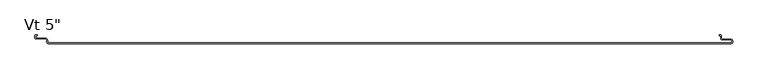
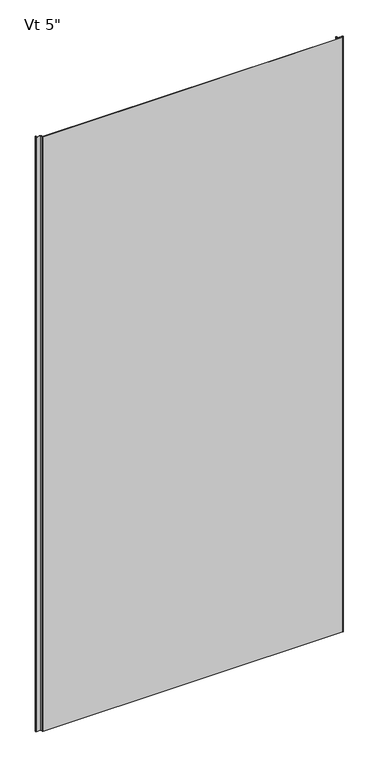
"""IFC4 building model written with IfcOpenShell, lengths in millimetres: plate geometry."""

import ifcopenshell
import ifcopenshell.guid

model = None  # the IFC model being written
_history = None  # IfcOwnerHistory: only IFC2X3 demands one
_inside = {}  # id of a spatial element -> (the spatial element, [elements in it])
_under = {}  # id of a project, library or spatial element -> (it, [spatial elements below it])
_declared = {}  # id of a project -> (the project, [libraries it declares])
_typed = {}  # id of a type object -> (the type object, [elements of that type])
_made_of = {}  # id of a material, layer set ... -> (it, [elements and type objects made of it])


def new_model(schema):
    """Start an empty IFC model of exactly this schema.

    Asked for "IFC4X3", IfcOpenShell would pick the latest addendum, in which some entities
    have other attributes; the version numbers below select the first issue.
    IFC2X3 requires an IfcOwnerHistory on every rooted entity: one is made here for all.
    """
    global model, _history
    if schema == "IFC4X3":
        model = ifcopenshell.file(schema_version=(4, 3, 0, 0))
    else:
        model = ifcopenshell.file(schema=schema)
    _inside.clear()
    _under.clear()
    _declared.clear()
    _typed.clear()
    _made_of.clear()
    _history = None
    if model.schema == "IFC2X3":
        org = make("IfcOrganization", Name="unknown")
        user = make(
            "IfcPersonAndOrganization",
            ThePerson=make("IfcPerson", FamilyName="unknown"),
            TheOrganization=org,
        )
        app = make(
            "IfcApplication",
            ApplicationDeveloper=org,
            Version="unknown",
            ApplicationFullName="unknown",
            ApplicationIdentifier="unknown",
        )
        _history = make(
            "IfcOwnerHistory",
            OwningUser=user,
            OwningApplication=app,
            ChangeAction="ADDED",
            CreationDate=0,
        )
    return model


def make(cls, **values):
    """One entity of the class cls with the attributes given. An attribute that is None is left unset."""
    return model.create_entity(
        cls, **{name: value for name, value in values.items() if value is not None}
    )


def rooted(cls, **values):
    """An entity with a GlobalId (a new one), such as an element, a storey or a relation."""
    return make(cls, GlobalId=ifcopenshell.guid.new(), OwnerHistory=_history, **values)


def si_unit(unit_type, name, prefix=None):
    """IfcSIUnit, for example si_unit("LENGTHUNIT", "METRE", prefix="MILLI")."""
    return make("IfcSIUnit", UnitType=unit_type, Prefix=prefix, Name=name)


def assignment(units):
    """IfcUnitAssignment: the units of a project."""
    return None if units is None else make("IfcUnitAssignment", Units=units)


def point(xyz):
    """IfcCartesianPoint."""
    return None if xyz is None else make("IfcCartesianPoint", Coordinates=xyz)


def direction(xyz):
    """IfcDirection."""
    return None if xyz is None else make("IfcDirection", DirectionRatios=xyz)


def frame(location, z_axis=None, x_axis=None):
    """IfcAxis2Placement3D, a coordinate frame: its origin and axes. An axis left out is left unset."""
    return make(
        "IfcAxis2Placement3D",
        Location=point(location),
        Axis=direction(z_axis),
        RefDirection=direction(x_axis),
    )


def origin():
    """The frame at (0, 0, 0) with its axes left unset."""
    return frame((0.0, 0.0, 0.0))


def place(relative_to, where):
    """IfcLocalPlacement: puts the frame where relative to a parent placement (None: the world)."""
    return make(
        "IfcLocalPlacement", PlacementRelTo=relative_to, RelativePlacement=where
    )


def context(
    kind, dimensions, precision=None, world=None, true_north=None, identifier=None
):
    """IfcGeometricRepresentationContext, for example the 3D "Model" context."""
    return make(
        "IfcGeometricRepresentationContext",
        ContextIdentifier=identifier,
        ContextType=kind,
        CoordinateSpaceDimension=dimensions,
        Precision=precision,
        WorldCoordinateSystem=world,
        TrueNorth=true_north,
    )


def project(units=None, contexts=None):
    """IfcProject with its units and contexts."""
    return rooted(
        "IfcProject",
        Name="project",
        RepresentationContexts=contexts,
        UnitsInContext=assignment(units),
    )


def spatial(cls, under=None, at=None, **own):
    """A site, building, storey or space (cls), placed at a placement, below another one or the project."""
    s = rooted(cls, ObjectPlacement=at, **own)
    if under is not None:
        _under.setdefault(under.id(), (under, []))[1].append(s)
    return s


def polyline(points):
    """IfcPolyline through the points."""
    return make("IfcPolyline", Points=[point(p) for p in points])


def circle_curve(where, radius):
    """IfcCircle in the frame where."""
    return make("IfcCircle", Position=where, Radius=radius)


def shape(context_of_items, identifier, shape_type, items):
    """IfcShapeRepresentation: the items that make up one representation, for example the "Body"."""
    return make(
        "IfcShapeRepresentation",
        ContextOfItems=context_of_items,
        RepresentationIdentifier=identifier,
        RepresentationType=shape_type,
        Items=items,
    )


def source(mapping_origin, context_of_items, identifier, shape_type, items):
    """IfcRepresentationMap: a shape defined once, which mapped items show again and again."""
    return make(
        "IfcRepresentationMap",
        MappingOrigin=mapping_origin,
        MappedRepresentation=shape(context_of_items, identifier, shape_type, items),
    )


def transform(
    local_origin,
    x_axis=None,
    y_axis=None,
    z_axis=None,
    scale=None,
    scale2=None,
    scale3=None,
    uniform=True,
):
    """IfcCartesianTransformationOperator3D, or its non-uniform kind. x_axis, y_axis, z_axis: its Axis1, 2, 3."""
    if uniform:
        return make(
            "IfcCartesianTransformationOperator3D",
            Axis1=direction(x_axis),
            Axis2=direction(y_axis),
            LocalOrigin=point(local_origin),
            Scale=scale,
            Axis3=direction(z_axis),
        )
    return make(
        "IfcCartesianTransformationOperator3DnonUniform",
        Axis1=direction(x_axis),
        Axis2=direction(y_axis),
        LocalOrigin=point(local_origin),
        Scale=scale,
        Axis3=direction(z_axis),
        Scale2=scale2,
        Scale3=scale3,
    )


def mapped(mapping_source, mapping_target):
    """IfcMappedItem: shows the shape of a source again, moved by a transform."""
    return make(
        "IfcMappedItem", MappingSource=mapping_source, MappingTarget=mapping_target
    )


def made_of(thing, what):
    """Note that an element or type object is made of a material, layer set ...; save() writes the relation."""
    if what is not None:
        _made_of.setdefault(what.id(), (what, []))[1].append(thing)
    return thing


def element(
    cls,
    number,
    at=None,
    inside=None,
    cuts=None,
    type_object=None,
    material=None,
    context=None,
    identifier="Body",
    shape_type=None,
    held_by="IfcProductDefinitionShape",
    body=None,
    shapes=None,
    **own,
):
    """One element of the class cls, such as IfcWall. Its Tag is "e" and its number.

    at: its placement. inside: the storey or other place that contains it. cuts: it is an
    opening in that element (IfcRelVoidsElement). A single representation is given by context,
    identifier, shape_type and body (its items); several are given by shapes. held_by: the class
    of the entity that holds the representations. save() writes the other relations.
    """
    e = rooted(cls, Tag="e%d" % number, ObjectPlacement=at, **own)
    if body is not None:
        shapes = [shape(context, identifier, shape_type, body)]
    if shapes is not None:
        e.Representation = make(held_by, Representations=shapes)
    if inside is not None:
        _inside.setdefault(inside.id(), (inside, []))[1].append(e)
    if cuts is not None:
        rooted(
            "IfcRelVoidsElement", RelatingBuildingElement=cuts, RelatedOpeningElement=e
        )
    if type_object is not None:
        _typed.setdefault(type_object.id(), (type_object, []))[1].append(e)
    return made_of(e, material)


def aggregate(whole, parts):
    """IfcRelAggregates: a whole, such as a stair, and the parts it consists of."""
    return rooted("IfcRelAggregates", RelatingObject=whole, RelatedObjects=parts)


def save(model, path):
    """Write the relations noted so far, then the file.

    IfcRelAggregates (storeys below a building ...), IfcRelContainedInSpatialStructure (elements
    in a storey), IfcRelDefinesByType, IfcRelAssociatesMaterial and IfcRelDeclares: one each for
    every whole, place, type object, material and project.
    """
    for whole, parts in _under.values():
        aggregate(whole, parts)
    for where, things in _inside.values():
        rooted(
            "IfcRelContainedInSpatialStructure",
            RelatedElements=things,
            RelatingStructure=where,
        )
    for kind, things in _typed.values():
        rooted("IfcRelDefinesByType", RelatedObjects=things, RelatingType=kind)
    for what, things in _made_of.values():
        rooted("IfcRelAssociatesMaterial", RelatedObjects=things, RelatingMaterial=what)
    for by, libraries in _declared.values():
        rooted("IfcRelDeclares", RelatingContext=by, RelatedDefinitions=libraries)
    model.write(path)


def plane_surface(at):
    """IfcPlane: the flat surface through the origin of the frame at, square to its z axis."""
    return make("IfcPlane", Position=at)


def cylinder_surface(at, radius):
    """IfcCylindricalSurface: all points at the distance radius from the z axis of the frame at."""
    return make("IfcCylindricalSurface", Position=at, Radius=radius)


def revolved_surface(curve, axis_point, axis_direction):
    """IfcSurfaceOfRevolution: the curve turned about the line through axis_point along axis_direction."""
    return make(
        "IfcSurfaceOfRevolution",
        SweptCurve=make("IfcArbitraryOpenProfileDef", ProfileType="CURVE", Curve=curve),
        AxisPosition=make("IfcAxis1Placement", Location=point(axis_point), Axis=direction(axis_direction)),
    )


def advanced_brep(points, edges, surfaces, faces):
    """IfcAdvancedBrep: a solid bounded by faces that lie on surfaces and meet in shared edges.

    An edge is (start, end): straight between two places in points (the first is 0);
    or (start, end, curve); or (start, end, curve, False) where it runs against its curve.
    A face is (place in surfaces, loops), or (place, loops, False) where it looks against
    its surface's normal. A loop lists edges by number (the first is 1), with a minus sign
    where the edge is run from its end to its start. The first loop is the outer one.
    """
    corners = [point(p) for p in points]
    vertices = [make("IfcVertexPoint", VertexGeometry=c) for c in corners]
    made = []
    for start, end, *more in edges:
        made.append(
            make(
                "IfcEdgeCurve",
                EdgeStart=vertices[start],
                EdgeEnd=vertices[end],
                EdgeGeometry=more[0] if more else make("IfcPolyline", Points=[corners[start], corners[end]]),
                SameSense=more[1] if len(more) > 1 else True,
            )
        )
    hull = []
    for where, loops, *sense in faces:
        bounds = []
        for j, loop in enumerate(loops):
            ring = [make("IfcOrientedEdge", EdgeElement=made[abs(k) - 1], Orientation=k > 0) for k in loop]
            bounds.append(
                make(
                    "IfcFaceOuterBound" if j == 0 else "IfcFaceBound",
                    Bound=make("IfcEdgeLoop", EdgeList=ring),
                    Orientation=True,
                )
            )
        hull.append(make("IfcAdvancedFace", Bounds=bounds, FaceSurface=surfaces[where], SameSense=sense[0] if sense else True))
    return make("IfcAdvancedBrep", Outer=make("IfcClosedShell", CfsFaces=hull))


def plate_7aa5751e(model_context):
    return source(origin(), model_context, "Body", "AdvancedBrep", [
        advanced_brep(
        [(-572.4123937, -124.0223811, 2400.0), (-572.4123937, -121.7308685, 2400.0), (-576.3897391, -117.7535232, 2400.0), (-591.9862514, -117.7535232, 2400.0), (-592.5741086, -117.165666, 2400.0), (-592.5741086, -114.0941346, 2400.0), (-591.9862374, -113.5062635, 2400.0), (-589.6312064, -113.5062635, 2400.0), (-589.6312064, -112.5062599, 2400.0), (-591.9862419, -112.5062599, 2400.0), (-593.5741185, -114.0941364, 2400.0), (-593.5741185, -117.1656851, 2400.0), (-591.9862419, -118.7535616, 2400.0), (-576.3898159, -118.7535616, 2400.0), (-573.4125474, -121.7308302, 2400.0), (-573.4125474, -124.022714, 2400.0), (-570.4352789, -126.9999825, 2400.0), (574.5475652, -127.0, 2400.0), (577.5248337, -124.0227315, 2400.0), (577.5248337, -122.9806329, 2400.0), (574.5475652, -120.0033644, 2400.0), (560.3591801, -120.0033644, 2400.0), (558.7713036, -118.4154878, 2400.0), (558.7713036, -114.0950697, 2400.0), (557.1304042, -112.5066023, 2400.0), (554.7857432, -112.5066023, 2400.0), (554.7857432, -113.5060472, 2400.0), (557.1628599, -113.5060472, 2400.0), (557.7713971, -114.0950842, 2400.0), (557.7713971, -118.4153166, 2400.0), (560.3590971, -121.0030166, 2400.0), (574.5482568, -121.0030166, 2400.0), (576.5262182, -122.980978, 2400.0), (576.5262182, -124.02341, 2400.0), (574.550337, -125.9992912, 2400.0), (-570.4354837, -125.9992912, 2400.0), (-572.4123937, -124.0223811, 0.0), (-570.4354837, -125.9992912, 0.0), (574.550337, -125.9992912, 0.0), (576.5262182, -124.02341, 0.0), (576.5262182, -122.980978, 0.0), (574.5482568, -121.0030166, 0.0), (560.3590971, -121.0030166, 0.0), (557.7713971, -118.4153166, 0.0), (557.7713971, -114.0950842, 0.0), (557.1628599, -113.5060472, 0.0), (554.7857432, -113.5060472, 0.0), (554.7857432, -112.5066023, 0.0), (557.1304042, -112.5066023, 0.0), (558.7713036, -114.0950697, 0.0), (558.7713036, -118.4154878, 0.0), (560.3591801, -120.0033644, 0.0), (574.5475652, -120.0033644, 0.0), (577.5248337, -122.9806329, 0.0), (577.5248337, -124.0227315, 0.0), (574.5475652, -127.0, 0.0), (-570.4352789, -127.0, 0.0), (-573.4125474, -124.022714, 0.0), (-573.4125474, -121.7308302, 0.0), (-576.3898159, -118.7535616, 0.0), (-591.9862419, -118.7535616, 0.0), (-593.5741185, -117.1656851, 0.0), (-593.5741185, -114.0941364, 0.0), (-591.9862419, -112.5062599, 0.0), (-589.6312064, -112.5062599, 0.0), (-589.6312064, -113.5062635, 0.0), (-591.9862374, -113.5062635, 0.0), (-592.5741086, -114.0941346, 0.0), (-592.5741086, -117.165666, 0.0), (-591.9862514, -117.7535232, 0.0), (-576.3897391, -117.7535232, 0.0), (-572.4123937, -121.7308685, 0.0)],
        [
            (0, 1),
            (1, 2, circle_curve(frame((-576.3897391, -121.7308685, 2400.0), z_axis=(0.0, 0.0, 1.0), x_axis=(-1.0, 0.0, 0.0)), 3.9773454)),
            (2, 3),
            (3, 4, circle_curve(frame((-591.9862514, -117.165666, 2400.0), z_axis=(0.0, 0.0, -1.0), x_axis=(-1.0, 0.0, 0.0)), 0.5878572)),
            (4, 5),
            (5, 6, circle_curve(frame((-591.9862374, -114.0941346, 2400.0), z_axis=(0.0, 0.0, -1.0), x_axis=(-1.0, 0.0, 0.0)), 0.5878711)),
            (6, 7),
            (7, 8),
            (8, 9),
            (9, 10, circle_curve(frame((-591.9862419, -114.0941364, 2400.0), z_axis=(0.0, 0.0, 1.0), x_axis=(-1.0, 0.0, 0.0)), 1.5878765)),
            (10, 11),
            (11, 12, circle_curve(frame((-591.9862419, -117.1656851, 2400.0), z_axis=(0.0, 0.0, 1.0), x_axis=(-1.0, 0.0, 0.0)), 1.5878765)),
            (12, 13),
            (13, 14, circle_curve(frame((-576.3898159, -121.7308302, 2400.0), z_axis=(0.0, 0.0, -1.0), x_axis=(-1.0, 0.0, 0.0)), 2.9772685)),
            (14, 15),
            (15, 16, circle_curve(frame((-570.4352789, -124.022714, 2400.0), z_axis=(0.0, 0.0, 1.0), x_axis=(-1.0, 0.0, 0.0)), 2.9772685)),
            (16, 17),
            (17, 18, circle_curve(frame((574.5475652, -124.0227315, 2400.0), z_axis=(0.0, 0.0, 1.0), x_axis=(-1.0, 0.0, 0.0)), 2.9772685)),
            (18, 19),
            (19, 20, circle_curve(frame((574.5475652, -122.9806329, 2400.0), z_axis=(0.0, 0.0, 1.0), x_axis=(-1.0, 0.0, 0.0)), 2.9772685)),
            (20, 21),
            (21, 22, circle_curve(frame((560.3591801, -118.4154878, 2400.0), z_axis=(0.0, 0.0, -1.0), x_axis=(-1.0, 0.0, 0.0)), 1.5878765)),
            (22, 23),
            (23, 24, circle_curve(frame((557.1819985, -114.0950697, 2400.0), z_axis=(0.0, 0.0, 1.0), x_axis=(-1.0, 0.0, 0.0)), 1.5893051)),
            (24, 25),
            (25, 26),
            (26, 27),
            (27, 28, circle_curve(frame((557.1820477, -114.0950842, 2400.0), z_axis=(0.0, 0.0, -1.0), x_axis=(-1.0, 0.0, 0.0)), 0.5893495)),
            (28, 29),
            (29, 30, circle_curve(frame((560.3590971, -118.4153166, 2400.0), z_axis=(0.0, 0.0, 1.0), x_axis=(-1.0, 0.0, 0.0)), 2.5877)),
            (30, 31),
            (31, 32, circle_curve(frame((574.5482568, -122.980978, 2400.0), z_axis=(0.0, 0.0, -1.0), x_axis=(-1.0, 0.0, 0.0)), 1.9779614)),
            (32, 33),
            (33, 34, circle_curve(frame((574.550337, -124.02341, 2400.0), z_axis=(0.0, 0.0, -1.0), x_axis=(-1.0, 0.0, 0.0)), 1.9758812)),
            (34, 35),
            (35, 0, circle_curve(frame((-570.4354837, -124.0223811, 2400.0), z_axis=(0.0, 0.0, -1.0), x_axis=(-1.0, 0.0, 0.0)), 1.9769101)),
            (36, 37, circle_curve(frame((-570.4354837, -124.0223811, 0.0), z_axis=(0.0, 0.0, 1.0), x_axis=(-1.0, 0.0, 0.0)), 1.9769101)),
            (37, 38),
            (38, 39, circle_curve(frame((574.550337, -124.02341, 0.0), z_axis=(0.0, 0.0, 1.0), x_axis=(-1.0, 0.0, 0.0)), 1.9758812)),
            (39, 40),
            (40, 41, circle_curve(frame((574.5482568, -122.980978, 0.0), z_axis=(0.0, 0.0, 1.0), x_axis=(-1.0, 0.0, 0.0)), 1.9779614)),
            (41, 42),
            (42, 43, circle_curve(frame((560.3590971, -118.4153166, 0.0), z_axis=(0.0, 0.0, -1.0), x_axis=(-1.0, 0.0, 0.0)), 2.5877)),
            (43, 44),
            (44, 45, circle_curve(frame((557.1820477, -114.0950842, 0.0), z_axis=(0.0, 0.0, 1.0), x_axis=(-1.0, 0.0, 0.0)), 0.5893495)),
            (45, 46),
            (46, 47),
            (47, 48),
            (48, 49, circle_curve(frame((557.1819985, -114.0950697, 0.0), z_axis=(0.0, 0.0, -1.0), x_axis=(-1.0, 0.0, 0.0)), 1.5893051)),
            (49, 50),
            (50, 51, circle_curve(frame((560.3591801, -118.4154878, 0.0), z_axis=(0.0, 0.0, 1.0), x_axis=(-1.0, 0.0, 0.0)), 1.5878765)),
            (51, 52),
            (52, 53, circle_curve(frame((574.5475652, -122.9806329, 0.0), z_axis=(0.0, 0.0, -1.0), x_axis=(-1.0, 0.0, 0.0)), 2.9772685)),
            (53, 54),
            (54, 55, circle_curve(frame((574.5475652, -124.0227315, 0.0), z_axis=(0.0, 0.0, -1.0), x_axis=(-1.0, 0.0, 0.0)), 2.9772685)),
            (55, 56),
            (56, 57, circle_curve(frame((-570.4352789, -124.022714, 0.0), z_axis=(0.0, 0.0, -1.0), x_axis=(-1.0, 0.0, 0.0)), 2.9772685)),
            (57, 58),
            (58, 59, circle_curve(frame((-576.3898159, -121.7308302, 0.0), z_axis=(0.0, 0.0, 1.0), x_axis=(-1.0, 0.0, 0.0)), 2.9772685)),
            (59, 60),
            (60, 61, circle_curve(frame((-591.9862419, -117.1656851, 0.0), z_axis=(0.0, 0.0, -1.0), x_axis=(-1.0, 0.0, 0.0)), 1.5878765)),
            (61, 62),
            (62, 63, circle_curve(frame((-591.9862419, -114.0941364, 0.0), z_axis=(0.0, 0.0, -1.0), x_axis=(-1.0, 0.0, 0.0)), 1.5878765)),
            (63, 64),
            (64, 65),
            (65, 66),
            (66, 67, circle_curve(frame((-591.9862374, -114.0941346, 0.0), z_axis=(0.0, 0.0, 1.0), x_axis=(-1.0, 0.0, 0.0)), 0.5878711)),
            (67, 68),
            (68, 69, circle_curve(frame((-591.9862514, -117.165666, 0.0), z_axis=(0.0, 0.0, 1.0), x_axis=(-1.0, 0.0, 0.0)), 0.5878572)),
            (69, 70),
            (70, 71, circle_curve(frame((-576.3897391, -121.7308685, 0.0), z_axis=(0.0, 0.0, -1.0), x_axis=(-1.0, 0.0, 0.0)), 3.9773454)),
            (71, 36),
            (23, 49),
            (48, 24),
            (22, 50),
            (21, 51),
            (20, 52),
            (19, 53),
            (17, 55),
            (54, 18),
            (32, 40),
            (39, 33),
            (38, 34),
            (16, 56),
            (37, 35),
            (36, 0),
            (71, 1),
            (70, 2),
            (69, 3),
            (4, 68),
            (67, 5),
            (66, 6),
            (65, 7),
            (64, 8),
            (63, 9),
            (62, 10),
            (61, 11),
            (60, 12),
            (59, 13),
            (58, 14),
            (57, 15),
            (31, 41),
            (30, 42),
            (29, 43),
            (28, 44),
            (27, 45),
            (26, 46),
            (25, 47),
        ],
        [
            plane_surface(frame((0.0, -127.0, 2400.0), z_axis=(0.0, 0.0, 1.0), x_axis=(0.0, -1.0, 0.0))),
            plane_surface(frame((0.0, -127.0, 0.0), z_axis=(0.0, 0.0, -1.0), x_axis=(0.0, -1.0, 0.0))),
            cylinder_surface(frame((557.1819985, -114.0950697, 2400.0), z_axis=(0.0, 0.0, 1.0), x_axis=(-1.0, 0.0, 0.0)), 1.5893051),
            plane_surface(frame((558.7713036, -114.0950697, 2400.0), z_axis=(1.0, 0.0, 0.0), x_axis=(0.0, 0.0, -1.0))),
            revolved_surface(polyline([(558.7713036, -118.4154878, 0.0), (558.7713036, -118.4154878, 2400.0)]), (560.3591801, -118.4154878, 2400.0), (0.0, 0.0, -1.0)),
            plane_surface(frame((560.3591801, -120.0033644, 2400.0), z_axis=(0.0, 1.0, 0.0), x_axis=(0.0, 0.0, -1.0))),
            cylinder_surface(frame((574.5475652, -122.9806329, 2400.0), z_axis=(0.0, 0.0, 1.0), x_axis=(-1.0, 0.0, 0.0)), 2.9772685),
            cylinder_surface(frame((574.5475652, -124.0227315, 2400.0), z_axis=(0.0, 0.0, 1.0), x_axis=(-1.0, 0.0, 0.0)), 2.9772685),
            plane_surface(frame((576.5262182, -124.02341, 2400.0), z_axis=(-1.0, 0.0, 0.0), x_axis=(0.0, 0.0, -1.0))),
            plane_surface(frame((577.5248337, -122.9806329, 2400.0), z_axis=(1.0, 0.0, 0.0), x_axis=(0.0, 0.0, -1.0))),
            revolved_surface(polyline([(572.5744558, -124.02341, 0.0), (572.5744558, -124.02341, 2400.0)]), (574.550337, -124.02341, 2400.0), (0.0, 0.0, -1.0)),
            plane_surface(frame((574.5475652, -127.0, 2400.0), z_axis=(0.0, -1.0, 0.0), x_axis=(0.0, 0.0, -1.0))),
            plane_surface(frame((-570.4354837, -125.9992912, 2400.0), z_axis=(0.0, 1.0, 0.0), x_axis=(0.0, 0.0, -1.0))),
            revolved_surface(polyline([(-572.4123938, -124.0223811, 0.0), (-572.4123938, -124.0223811, 2400.0)]), (-570.4354837, -124.0223811, 2400.0), (0.0, 0.0, -1.0)),
            plane_surface(frame((-572.4123937, -121.7308685, 2400.0), z_axis=(1.0, 0.0, 0.0), x_axis=(0.0, 0.0, -1.0))),
            cylinder_surface(frame((-576.3897391, -121.7308685, 2400.0), z_axis=(0.0, 0.0, 1.0), x_axis=(-1.0, 0.0, 0.0)), 3.9773454),
            plane_surface(frame((-591.9862514, -117.7535232, 2400.0), z_axis=(0.0, 1.0, 0.0), x_axis=(0.0, 0.0, -1.0))),
            plane_surface(frame((-592.5741086, -114.0941346, 2400.0), z_axis=(1.0, 0.0, 0.0), x_axis=(0.0, 0.0, -1.0))),
            revolved_surface(polyline([(-592.5741085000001, -114.0941346, 0.0), (-592.5741085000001, -114.0941346, 2400.0)]), (-591.9862374, -114.0941346, 2400.0), (0.0, 0.0, -1.0)),
            plane_surface(frame((-589.6312064, -113.5062635, 2400.0), z_axis=(0.0, -1.0, 0.0), x_axis=(0.0, 0.0, -1.0))),
            plane_surface(frame((-589.6312064, -112.5062599, 2400.0), z_axis=(1.0, 0.0, 0.0), x_axis=(0.0, 0.0, -1.0))),
            plane_surface(frame((-591.9862419, -112.5062599, 2400.0), z_axis=(0.0, 1.0, 0.0), x_axis=(0.0, 0.0, -1.0))),
            cylinder_surface(frame((-591.9862419, -114.0941364, 2400.0), z_axis=(0.0, 0.0, 1.0), x_axis=(-1.0, 0.0, 0.0)), 1.5878765),
            plane_surface(frame((-593.5741185, -117.1656851, 2400.0), z_axis=(-1.0, 0.0, 0.0), x_axis=(0.0, 0.0, -1.0))),
            cylinder_surface(frame((-591.9862419, -117.1656851, 2400.0), z_axis=(0.0, 0.0, 1.0), x_axis=(-1.0, 0.0, 0.0)), 1.5878765),
            plane_surface(frame((-576.3898159, -118.7535616, 2400.0), z_axis=(0.0, -1.0, 0.0), x_axis=(0.0, 0.0, -1.0))),
            revolved_surface(polyline([(-579.3670844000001, -121.7308302, 0.0), (-579.3670844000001, -121.7308302, 2400.0)]), (-576.3898159, -121.7308302, 2400.0), (0.0, 0.0, -1.0)),
            plane_surface(frame((-573.4125474, -124.022714, 2400.0), z_axis=(-1.0, 0.0, 0.0), x_axis=(0.0, 0.0, -1.0))),
            cylinder_surface(frame((-570.4352789, -124.022714, 2400.0), z_axis=(0.0, 0.0, 1.0), x_axis=(-1.0, 0.0, 0.0)), 2.9772685),
            revolved_surface(polyline([(-592.5741086, -117.165666, 0.0), (-592.5741086, -117.165666, 2400.0)]), (-591.9862514, -117.165666, 2400.0), (0.0, 0.0, -1.0)),
            revolved_surface(polyline([(572.5702954, -122.980978, 0.0), (572.5702954, -122.980978, 2400.0)]), (574.5482568, -122.980978, 2400.0), (0.0, 0.0, -1.0)),
            plane_surface(frame((574.5482568, -121.0030166, 2400.0), z_axis=(0.0, -1.0, 0.0), x_axis=(0.0, 0.0, -1.0))),
            cylinder_surface(frame((560.3590971, -118.4153166, 2400.0), z_axis=(0.0, 0.0, 1.0), x_axis=(-1.0, 0.0, 0.0)), 2.5877),
            plane_surface(frame((557.7713971, -118.4153166, 2400.0), z_axis=(-1.0, 0.0, 0.0), x_axis=(0.0, 0.0, -1.0))),
            revolved_surface(polyline([(556.5926982, -114.0950842, 0.0), (556.5926982, -114.0950842, 2400.0)]), (557.1820477, -114.0950842, 2400.0), (0.0, 0.0, -1.0)),
            plane_surface(frame((557.1628599, -113.5060472, 2400.0), z_axis=(0.0, -1.0, 0.0), x_axis=(0.0, 0.0, -1.0))),
            plane_surface(frame((554.7857432, -113.5060472, 2400.0), z_axis=(-1.0, 0.0, 0.0), x_axis=(0.0, 0.0, -1.0))),
            plane_surface(frame((554.7857432, -112.5066023, 2400.0), z_axis=(0.0, 1.0, 0.0), x_axis=(0.0, 0.0, -1.0))),
        ],
        [
            (0, [[1, 2, 3, 4, 5, 6, 7, 8, 9, 10, 11, 12, 13, 14, 15, 16, 17, 18, 19, 20, 21, 22, 23, 24, 25, 26, 27, 28, 29, 30, 31, 32, 33, 34, 35, 36]]),
            (1, [[37, 38, 39, 40, 41, 42, 43, 44, 45, 46, 47, 48, 49, 50, 51, 52, 53, 54, 55, 56, 57, 58, 59, 60, 61, 62, 63, 64, 65, 66, 67, 68, 69, 70, 71, 72]]),
            (2, [[73, -49, 74, -24]]),
            (3, [[75, -50, -73, -23]]),
            (4, [[76, -51, -75, -22]]),
            (5, [[77, -52, -76, -21]]),
            (6, [[78, -53, -77, -20]]),
            (7, [[79, -55, 80, -18]]),
            (8, [[81, -40, 82, -33]]),
            (9, [[-80, -54, -78, -19]]),
            (10, [[-82, -39, 83, -34]]),
            (11, [[84, -56, -79, -17]]),
            (12, [[-83, -38, 85, -35]]),
            (13, [[-85, -37, 86, -36]]),
            (14, [[-86, -72, 87, -1]]),
            (15, [[-87, -71, 88, -2]]),
            (16, [[-88, -70, 89, -3]]),
            (17, [[90, -68, 91, -5]]),
            (18, [[-91, -67, 92, -6]]),
            (19, [[-92, -66, 93, -7]]),
            (20, [[-93, -65, 94, -8]]),
            (21, [[-94, -64, 95, -9]]),
            (22, [[-95, -63, 96, -10]]),
            (23, [[-96, -62, 97, -11]]),
            (24, [[-97, -61, 98, -12]]),
            (25, [[-98, -60, 99, -13]]),
            (26, [[-99, -59, 100, -14]]),
            (27, [[-100, -58, 101, -15]]),
            (28, [[-101, -57, -84, -16]]),
            (29, [[-89, -69, -90, -4]]),
            (30, [[102, -41, -81, -32]]),
            (31, [[103, -42, -102, -31]]),
            (32, [[104, -43, -103, -30]]),
            (33, [[105, -44, -104, -29]]),
            (34, [[106, -45, -105, -28]]),
            (35, [[107, -46, -106, -27]]),
            (36, [[108, -47, -107, -26]]),
            (37, [[-74, -48, -108, -25]]),
        ],
    ),
    ])


if __name__ == "__main__":
    model = new_model("IFC4")
    model_context = context("Model", 3, world=origin())
    ifc_project = project(units=[si_unit("LENGTHUNIT", "METRE", prefix="MILLI")], contexts=[model_context])
    site = spatial("IfcSite", under=ifc_project)
    building = spatial("IfcBuilding", under=site)
    placement = place(None, origin())
    plate_shape = plate_7aa5751e(model_context)
    element("IfcPlate", 1, ObjectType="KIP-SLI-FLI-R19-CP-Vt-FL_SL : Vt 5\"", at=placement, inside=building, context=model_context, shape_type="MappedRepresentation", body=[
        mapped(plate_shape, transform((0.0, 0.0, 0.0), x_axis=(1.0, 0.0, 0.0), y_axis=(0.0, 1.0, 0.0), z_axis=(0.0, 0.0, 1.0))),
    ])
    save(model, "model.ifc")
